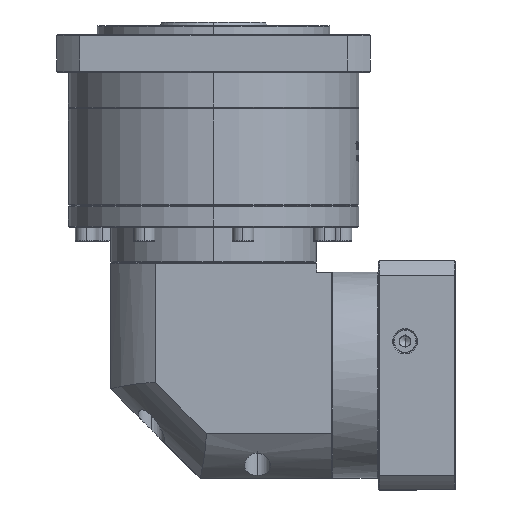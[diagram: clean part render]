
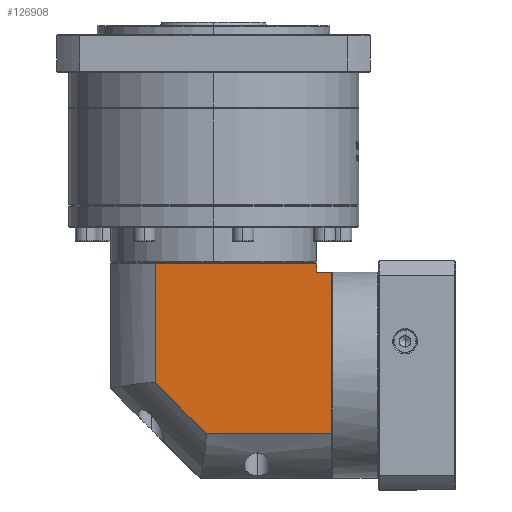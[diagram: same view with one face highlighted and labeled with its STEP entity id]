
A CAD part, left-side view. The second image highlights one B-rep face of the part: STEP entity #126908.
In plain terms, the highlighted planar face has unit normal (-1, 0, 0).
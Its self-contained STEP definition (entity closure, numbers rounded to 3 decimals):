
#106 = ORIENTED_EDGE ( 'NONE', *, *, #137691, .F. ) ;
#5006 = DIRECTION ( 'NONE',  ( 0., 0., 1. ) ) ;
#6188 = CARTESIAN_POINT ( 'NONE',  ( -268.953, 8.625, 90.609 ) ) ;
#8658 = EDGE_LOOP ( 'NONE', ( #19637, #106, #77640, #150524, #135130, #18938, #55124 ) ) ;
#12393 = VECTOR ( 'NONE', #37263, 1000. ) ;
#16858 = DIRECTION ( 'NONE',  ( 0., 1., 0. ) ) ;
#18938 = ORIENTED_EDGE ( 'NONE', *, *, #139708, .T. ) ;
#19637 = ORIENTED_EDGE ( 'NONE', *, *, #120193, .F. ) ;
#20072 = CARTESIAN_POINT ( 'NONE',  ( -268.953, 8.625, 17.547 ) ) ;
#22158 = DIRECTION ( 'NONE',  ( 0., 0.707, 0.707 ) ) ;
#25460 = VECTOR ( 'NONE', #27398, 1000. ) ;
#25539 = EDGE_CURVE ( 'NONE', #105818, #153603, #55423, .T. ) ;
#27398 = DIRECTION ( 'NONE',  ( 0., 0., -1. ) ) ;
#28382 = FACE_OUTER_BOUND ( 'NONE', #8658, .T. ) ;
#29221 = LINE ( 'NONE', #142511, #25460 ) ;
#31041 = VECTOR ( 'NONE', #22158, 1000. ) ;
#35681 = EDGE_CURVE ( 'NONE', #149411, #117543, #29221, .T. ) ;
#37263 = DIRECTION ( 'NONE',  ( 0., -1., 0. ) ) ;
#44620 = CARTESIAN_POINT ( 'NONE',  ( -268.953, -89.675, 79.109 ) ) ;
#49682 = CARTESIAN_POINT ( 'NONE',  ( -268.953, -89.675, -10.791 ) ) ;
#51068 = EDGE_CURVE ( 'NONE', #149411, #88538, #92535, .T. ) ;
#51533 = CARTESIAN_POINT ( 'NONE',  ( -268.953, -81.275, -35.891 ) ) ;
#52720 = DIRECTION ( 'NONE',  ( 0., 0., 1. ) ) ;
#55124 = ORIENTED_EDGE ( 'NONE', *, *, #25539, .F. ) ;
#55423 = LINE ( 'NONE', #109381, #12393 ) ;
#59575 = PLANE ( 'NONE',  #89220 ) ;
#60083 = CARTESIAN_POINT ( 'NONE',  ( -268.953, 33.725, 90.609 ) ) ;
#68756 = CARTESIAN_POINT ( 'NONE',  ( -268.953, -19.713, -10.791 ) ) ;
#73874 = CARTESIAN_POINT ( 'NONE',  ( -268.953, 33.725, -10.791 ) ) ;
#77640 = ORIENTED_EDGE ( 'NONE', *, *, #107325, .F. ) ;
#77793 = VECTOR ( 'NONE', #16858, 1000. ) ;
#87361 = DIRECTION ( 'NONE',  ( 0., 1., 0. ) ) ;
#88538 = VERTEX_POINT ( 'NONE', #150642 ) ;
#89220 = AXIS2_PLACEMENT_3D ( 'NONE', #60083, #95611, #153585 ) ;
#89765 = VECTOR ( 'NONE', #87361, 1000. ) ;
#90481 = CARTESIAN_POINT ( 'NONE',  ( -268.953, -81.275, 79.109 ) ) ;
#92535 = LINE ( 'NONE', #90481, #77793 ) ;
#95611 = DIRECTION ( 'NONE',  ( 1., 0., 0. ) ) ;
#95833 = VERTEX_POINT ( 'NONE', #20072 ) ;
#99077 = LINE ( 'NONE', #6188, #127082 ) ;
#105818 = VERTEX_POINT ( 'NONE', #107729 ) ;
#107177 = VECTOR ( 'NONE', #5006, 1000. ) ;
#107325 = EDGE_CURVE ( 'NONE', #117543, #152561, #121617, .T. ) ;
#107729 = CARTESIAN_POINT ( 'NONE',  ( -268.953, 8.625, 84.109 ) ) ;
#109381 = CARTESIAN_POINT ( 'NONE',  ( -268.953, 33.725, 84.109 ) ) ;
#117543 = VERTEX_POINT ( 'NONE', #49682 ) ;
#120193 = EDGE_CURVE ( 'NONE', #95833, #105818, #99077, .T. ) ;
#121617 = LINE ( 'NONE', #73874, #89765 ) ;
#126908 = ADVANCED_FACE ( 'NONE', ( #28382 ), #59575, .F. ) ;
#127082 = VECTOR ( 'NONE', #52720, 1000. ) ;
#135130 = ORIENTED_EDGE ( 'NONE', *, *, #51068, .T. ) ;
#137691 = EDGE_CURVE ( 'NONE', #152561, #95833, #145252, .T. ) ;
#139035 = LINE ( 'NONE', #51533, #107177 ) ;
#139708 = EDGE_CURVE ( 'NONE', #88538, #153603, #139035, .T. ) ;
#142511 = CARTESIAN_POINT ( 'NONE',  ( -268.953, -89.675, 90.609 ) ) ;
#145252 = LINE ( 'NONE', #68756, #31041 ) ;
#146309 = CARTESIAN_POINT ( 'NONE',  ( -268.953, -19.713, -10.791 ) ) ;
#148028 = CARTESIAN_POINT ( 'NONE',  ( -268.953, -81.275, 84.109 ) ) ;
#149411 = VERTEX_POINT ( 'NONE', #44620 ) ;
#150524 = ORIENTED_EDGE ( 'NONE', *, *, #35681, .F. ) ;
#150642 = CARTESIAN_POINT ( 'NONE',  ( -268.953, -81.275, 79.109 ) ) ;
#152561 = VERTEX_POINT ( 'NONE', #146309 ) ;
#153585 = DIRECTION ( 'NONE',  ( 0., 1., 0. ) ) ;
#153603 = VERTEX_POINT ( 'NONE', #148028 ) ;
